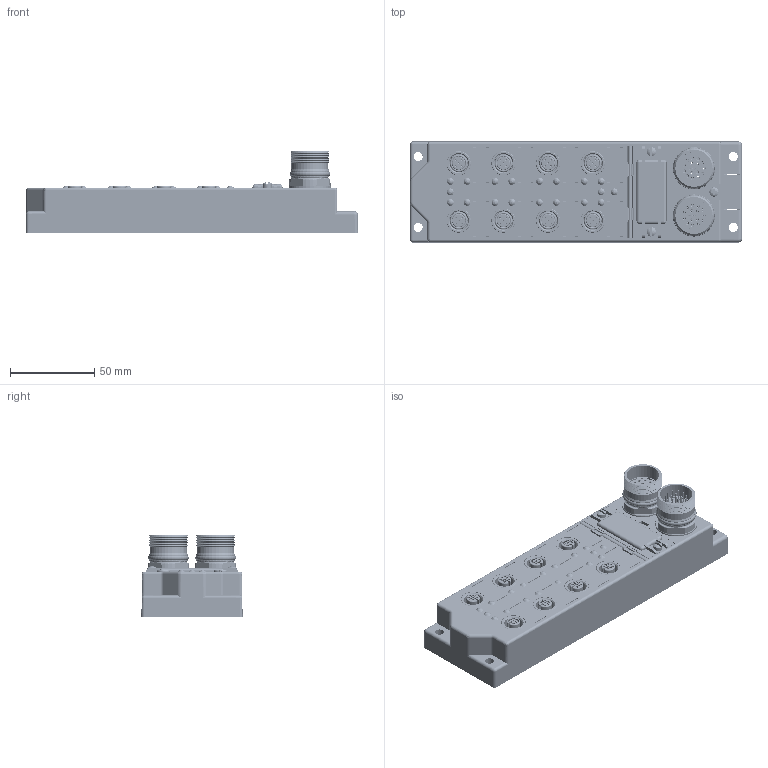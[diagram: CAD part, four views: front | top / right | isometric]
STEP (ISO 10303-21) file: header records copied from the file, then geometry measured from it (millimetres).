
FILE_DESCRIPTION((''),'2;1');
FILE_NAME('C:\TurckZip\FLDP-M23-17pinMale.stp','2006-12-21T08:56:59',('IKOROL'),(''),'Autodesk Inventor 11','Autodesk Inventor 11','');
FILE_SCHEMA(('AUTOMOTIVE_DESIGN { 1 0 10303 214 1 1 1 1 }'));
Length unit declared in the file: millimetre
Products named in the file (1): Part41
Bounding box: 196.93 x 60 x 48.9 mm (x, y, z)
Volume: 131456.9 mm3; surface area: 108180.7 mm2
Topology: 1 solids, 71 shells, 4195 faces, 10676 edges, 6935 vertices
Faces by surface type: plane 2097, cylinder 1149, bspline 495, cone 346, torus 91, sphere 17
Full cylindrical faces by diameter (mm): 0.4 x1, 0.5 x5, 0.508 x4, 0.55 x1, 0.6 x1, 0.635 x4, 0.9 x17, 1 x41, 1.1 x80, 1.3 x8, 1.5 x91, 1.6 x18, 1.65 x5, 1.7 x16, 1.8 x16, 2 x40, 2.01 x40, 2.2 x2, 2.4 x2, 2.42 x10, 2.8 x1, 2.845 x1, 3 x3, 3.1 x2, 3.5 x2, 3.8 x2, 4 x2, 4.1 x38, 4.6 x2, 5 x19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
Entity records: 129015 total; most frequent: CARTESIAN_POINT 34297, DIRECTION 18771, ORIENTED_EDGE 18526, EDGE_CURVE 9263, AXIS2_PLACEMENT_3D 6748, VERTEX_POINT 6575, EDGE_LOOP 5968, VECTOR 5275
